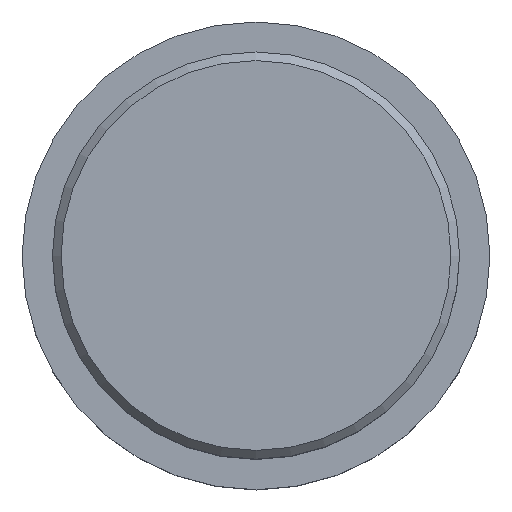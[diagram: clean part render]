
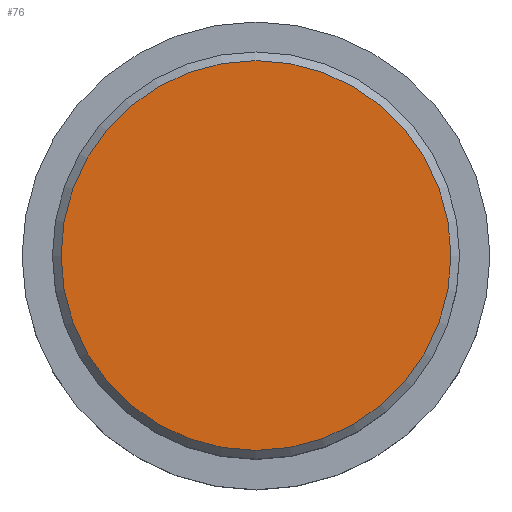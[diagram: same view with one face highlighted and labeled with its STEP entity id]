
A CAD part, top view. The second image highlights one B-rep face of the part: STEP entity #76.
In plain terms, the highlighted planar face has unit normal (0, 0, 1).
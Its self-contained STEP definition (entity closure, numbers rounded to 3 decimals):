
#18=PLANE('',#98);
#22=FACE_OUTER_BOUND('',#28,.T.);
#28=EDGE_LOOP('',(#62));
#40=CIRCLE('',#96,2.25);
#45=VERTEX_POINT('',#135);
#50=EDGE_CURVE('',#45,#45,#40,.T.);
#62=ORIENTED_EDGE('',*,*,#50,.T.);
#76=ADVANCED_FACE('',(#22),#18,.T.);
#96=AXIS2_PLACEMENT_3D('',#136,#110,#111);
#98=AXIS2_PLACEMENT_3D('',#140,#115,#116);
#110=DIRECTION('center_axis',(0.,0.,1.));
#111=DIRECTION('ref_axis',(1.,0.,0.));
#115=DIRECTION('center_axis',(0.,0.,1.));
#116=DIRECTION('ref_axis',(1.,0.,0.));
#135=CARTESIAN_POINT('',(-2.25,2.,0.42));
#136=CARTESIAN_POINT('Origin',(0.,2.,0.42));
#140=CARTESIAN_POINT('Origin',(0.,2.,0.42));
